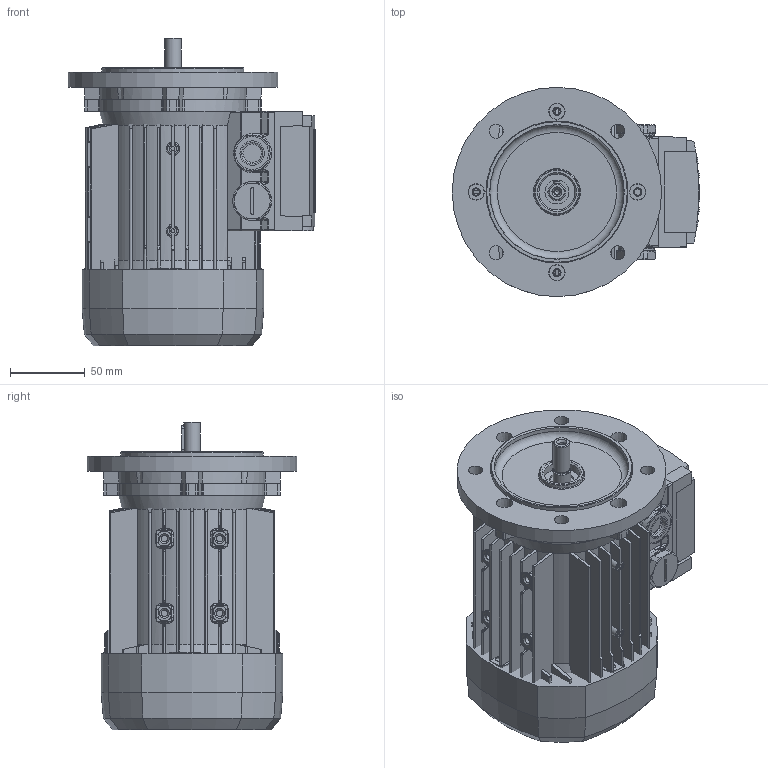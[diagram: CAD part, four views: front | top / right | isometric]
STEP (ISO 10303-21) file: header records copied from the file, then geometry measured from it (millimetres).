
FILE_DESCRIPTION(/* description */ (''),/* implementation_level */ '2;1');
FILE_NAME(/* name */ '856BB02EB2090388FA56A04DA27020FB2965631F.stp',/* time_stamp */ '2024-05-05T00:59:35+00:00',/* author */ (''),/* organization */ (''),/* preprocessor_version */ 'ST-DEVELOPER v18.102',/* originating_system */ 'SIEMENS PLM Software NX2206.8501',/* authorisation */ '');
FILE_SCHEMA (('AP203_CONFIGURATION_CONTROLLED_3D_DESIGN_OF_MECHANICAL_PARTS_AND_ASSEMBLIES_MIM_LF { 1 0 10303 403 2 1 2}'));
Products named in the file (9): 718450009_C-CABLE GLAND PLUG -  M20X1.5 _SU-SP_; 610040643_--AC MOTOR SHAFT - BN63 BN63; 100000000_-- -; 712403004C_--KEY -  4X4X18 A UNI6604 R70_80; 612530537_B-FAN COVER - BN63 _OPEN HOUSING_; 614260319_A-MOTOR FLANGE - BN63 B5; 612536029_C-TERM.BOX COVER - BN56_80; 612352910_A-HWS - BN63A4N 230_400-50 B5 F_ESTERNO; 4F69CBEC44B161E056FEEF79C485778EF5FCD23D_01_01-BN63 X MOSAICO
Assembly tree (9 placements, depth 3):
  4F69CBEC44B161E056FEEF79C485778EF5FCD23D_01_01-BN63 X MOSAICO
    612536029_C-TERM.BOX COVER - BN56_80
    614260319_A-MOTOR FLANGE - BN63 B5
    612530537_B-FAN COVER - BN63 _OPEN HOUSING_
    712403004C_--KEY -  4X4X18 A UNI6604 R70_80
    100000000_-- -
    610040643_--AC MOTOR SHAFT - BN63 BN63
    612352910_A-HWS - BN63A4N 230_400-50 B5 F_ESTERNO
      718450009_C-CABLE GLAND PLUG -  M20X1.5 _SU-SP_  x2
Bounding box: 165.5 x 140 x 206 mm (x, y, z)
Volume: 1910312.8 mm3; surface area: 423734.5 mm2
Topology: 10 solids, 10 shells, 2130 faces, 5436 edges, 3382 vertices
Faces by surface type: plane 741, cylinder 713, cone 284, bspline 203, torus 92, sphere 66, extrusion 31
Full cylindrical faces by diameter (mm): 1 x1, 2.7 x8, 3.3 x1, 3.432 x14, 4 x2, 4.3 x1, 4.35 x4, 4.351 x16, 5.5 x4, 9.5 x4, 10.6 x1, 11 x1, 12 x1, 14.4 x4, 16 x3, 18 x1, 18.782 x2, 20 x2, 24 x5, 26 x2, 28 x1, 32 x1, 90 x1, 95 x6, 140 x1
Entity records: 71949 total; most frequent: CARTESIAN_POINT 23066, ORIENTED_EDGE 10086, DIRECTION 9776, EDGE_CURVE 5043, AXIS2_PLACEMENT_3D 3891, VERTEX_POINT 3231, EDGE_LOOP 2423, ADVANCED_FACE 2099
